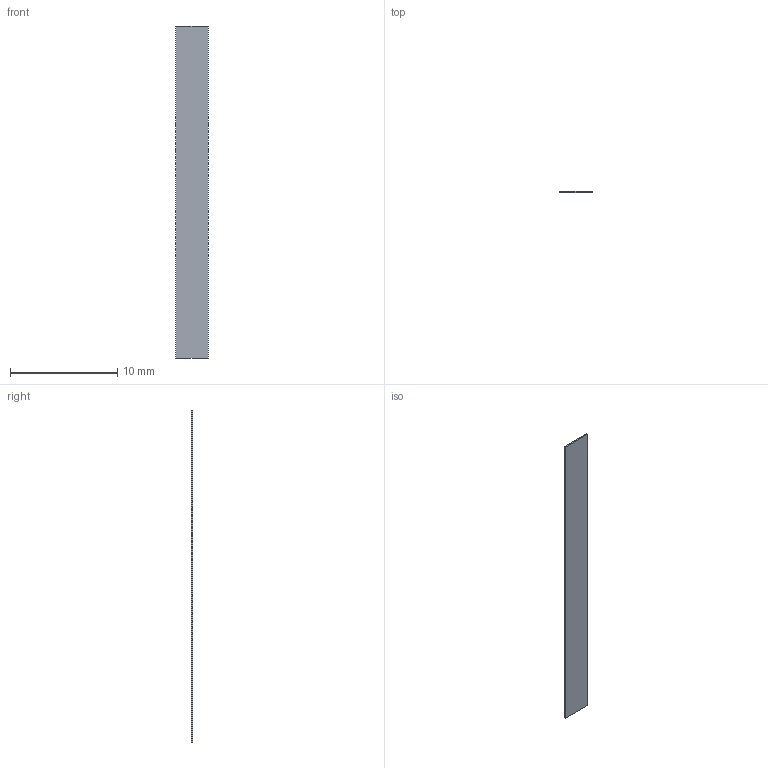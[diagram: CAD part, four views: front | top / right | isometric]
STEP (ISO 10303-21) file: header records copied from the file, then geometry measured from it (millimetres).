
FILE_DESCRIPTION(('Open CASCADE Model'),'2;1');
FILE_NAME('Open CASCADE Shape Model','2026-11-23T18:10:19',('Author'),( 'Open CASCADE'),'Open CASCADE STEP processor 8.0','build123d', 'Unknown');
FILE_SCHEMA(('AUTOMOTIVE_DESIGN { 1 0 10303 214 1 1 1 1 }'));
Length unit declared in the file: millimetre
Products named in the file (2): =>[0:1:1:2]; COMPOUND
Assembly tree (1 placements, depth 2):
  =>[0:1:1:2]
    COMPOUND
Bounding box: 3 x 0.13 x 31 mm (x, y, z)
Volume: 12.1 mm3; surface area: 194.8 mm2
Topology: 1 solids, 1 shells, 6 faces, 12 edges, 8 vertices
Faces by surface type: plane 6
Entity records: 340 total; most frequent: CARTESIAN_POINT 52, DIRECTION 52, LINE 36, VECTOR 36, ORIENTED_EDGE 24, PCURVE 24, DEFINITIONAL_REPRESENTATION 24, EDGE_CURVE 12
